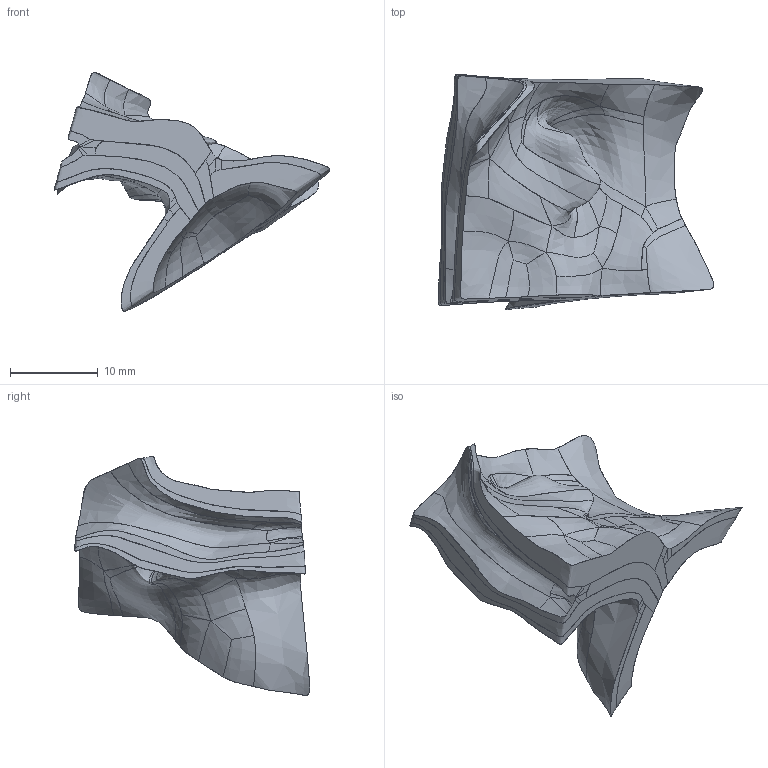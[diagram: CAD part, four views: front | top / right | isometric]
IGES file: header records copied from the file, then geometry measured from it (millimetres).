
Global section: file name: C:\FDA Main\FDA-Septal-Models\5720451\5720451.phase.0.igs; native system: Rhinoceros ( Mar  9 2011 ); preprocessor: Trout Lake IGES 012 Mar  9 2011; date: 120615.143525; units: millimetre
Bounding box: 31.41 x 26.8 x 27.23 mm (x, y, z)
Surface area: 2606.2 mm2 (no closed solid volume)
Topology: 0 solids, 0 shells, 119 faces, 476 edges, 476 vertices
Faces by surface type: bspline 119
